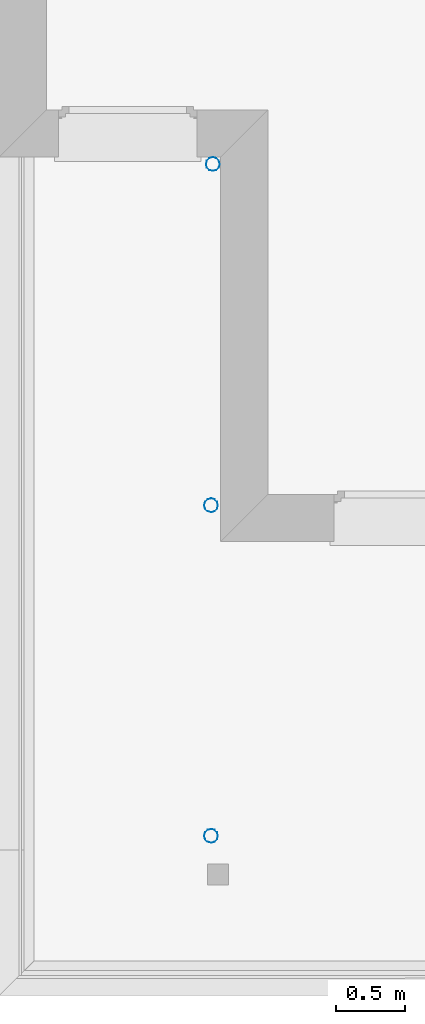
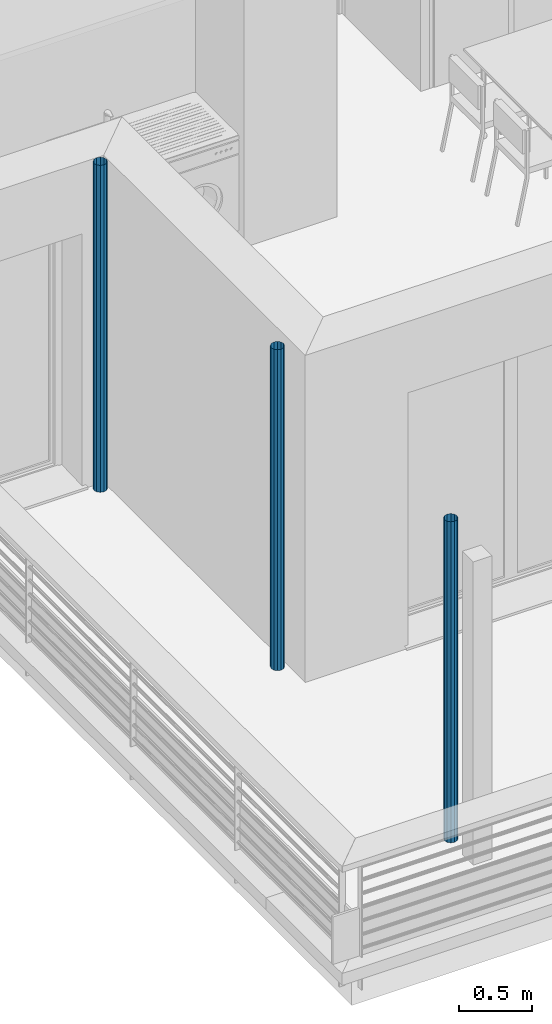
# One storey, part 89 of 171: 3 discrete accessories.
"""IFC2X3 building model written with IfcOpenShell, lengths in millimetres."""

from ifc_helpers import new_model, entity, si_unit, converted_unit, derived_unit, money_unit, direction, frame, origin_with_axes, place, context, subcontext, project, spatial, open_shell, surface_model, source, transform, mapped, type_object, element, save


model = new_model("IFC2X3")

# Units and contexts
model_context = context("Model", 3, precision=0.01, world=origin_with_axes(), true_north=direction((0.0, 1.0)))
body_context = subcontext(model_context, "Body", "Model", "MODEL_VIEW")
ifc_project = project(units=[si_unit("LENGTHUNIT", "METRE", prefix="MILLI"), si_unit("AREAUNIT", "SQUARE_METRE"), si_unit("VOLUMEUNIT", "CUBIC_METRE"), converted_unit("PLANEANGLEUNIT", "DEGREE", entity("IfcPlaneAngleMeasure", 0.0174532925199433), si_unit("PLANEANGLEUNIT", "RADIAN"), dimensions=[0, 0, 0, 0, 0, 0, 0]), money_unit("USD"), converted_unit("TIMEUNIT", "Year", entity("IfcTimeMeasure", 31557600.0), si_unit("TIMEUNIT", "SECOND"), dimensions=[0, 0, 1, 0, 0, 0, 0]), si_unit("MASSUNIT", "GRAM", prefix="KILO"), si_unit("THERMODYNAMICTEMPERATUREUNIT", "DEGREE_CELSIUS"), si_unit("LUMINOUSINTENSITYUNIT", "LUMEN"), si_unit("ENERGYUNIT", "JOULE", prefix="MEGA"), derived_unit("THERMALCONDUCTANCEUNIT", [(si_unit("POWERUNIT", "WATT"), 1), (si_unit("LENGTHUNIT", "METRE"), -1), (si_unit("THERMODYNAMICTEMPERATUREUNIT", "KELVIN"), -1)]), derived_unit("SPECIFICHEATCAPACITYUNIT", [(si_unit("ENERGYUNIT", "JOULE"), 1), (si_unit("MASSUNIT", "GRAM", prefix="KILO"), -1), (si_unit("THERMODYNAMICTEMPERATUREUNIT", "KELVIN"), -1)]), derived_unit("MASSDENSITYUNIT", [(si_unit("MASSUNIT", "GRAM", prefix="KILO"), 1), (si_unit("VOLUMEUNIT", "CUBIC_METRE"), -1)])], contexts=[model_context])

# Site, building, storey
site_placement = place(None, origin_with_axes())
site = spatial("IfcSite", under=ifc_project, at=site_placement, Name="Site", CompositionType="ELEMENT")
building_placement = place(site_placement, origin_with_axes())
building = spatial("IfcBuilding", under=site, at=building_placement, Name="Bâtiment", CompositionType="ELEMENT")
storey_placement = place(building_placement, frame((0.0, 0.0, 3000.0), z_axis=(0.0, 0.0, 1.0), x_axis=(1.0, 0.0, 0.0)))
storey = spatial("IfcBuildingStorey", under=building, at=storey_placement, Name="rdc", CompositionType="ELEMENT", Elevation=3000.0)

# Discrete accessories
discrete_accessory_type = type_object("IfcDiscreteAccessoryType", Name="Tuyau descente 27")
shared_shape_1 = source(origin_with_axes(), body_context, "Body", "SurfaceModel", [
    surface_model("IfcShellBasedSurfaceModel", [(50.0, 0.0, 2700.0), (43.30127018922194, -25.0, 2700.0), (43.30127018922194, -25.0, 0.0), (50.0, 0.0, 0.0), (25.00000000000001, -43.30127018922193, 2700.0), (25.00000000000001, -43.30127018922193, 0.0), (43.30127018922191, 25.00000000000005, 2700.0), (43.30127018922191, 25.00000000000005, 0.0), (0.0, -50.0, 2700.0), (0.0, -50.0, 0.0), (24.99999999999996, 43.30127018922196, 2700.0), (24.99999999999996, 43.30127018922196, 0.0), (-24.99999999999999, -43.30127018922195, 2700.0), (-24.99999999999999, -43.30127018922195, 0.0), (0.0, 50.0, 2700.0), (0.0, 50.0, 0.0), (-43.30127018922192, -25.00000000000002, 2700.0), (-43.30127018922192, -25.00000000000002, 0.0), (-25.00000000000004, 43.30127018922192, 2700.0), (-25.00000000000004, 43.30127018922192, 0.0), (-50.0, 0.0, 2700.0), (-50.0, 0.0, 0.0), (-43.30127018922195, 24.99999999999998, 2700.0), (-43.30127018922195, 24.99999999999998, 0.0)], [open_shell([[[0, 1, 2, 3]], [[1, 4, 5, 2]], [[6, 0, 3, 7]], [[4, 8, 9, 5]], [[10, 6, 7, 11]], [[8, 12, 13, 9]], [[14, 10, 11, 15]], [[12, 16, 17, 13]], [[18, 14, 15, 19]], [[16, 20, 21, 17]], [[22, 18, 19, 23]], [[20, 22, 23, 21]]])]),
])
for number, where, z_axis, x_axis, name in (
    (1, (2218164.233338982, -657556.9887538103, 0.0), (0.0, 0.0, 1.0), (1.0, 0.0, 0.0), "Obj.-318"),
    (2, (2218164.233338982, -659945.2572130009, 0.0), (0.0, 0.0, 1.0), (1.0, 0.0, 0.0), "Obj.-318"),
):
    element("IfcDiscreteAccessory", number, at=place(storey_placement, frame(where, z_axis=z_axis, x_axis=x_axis)), inside=storey, type_object=discrete_accessory_type, Name=name, context=body_context, shape_type="MappedRepresentation", body=[
        mapped(shared_shape_1, transform((0.0, 0.0, 0.0))),
    ])
shared_shape_2 = source(origin_with_axes(), body_context, "Body", "SurfaceModel", [
    surface_model("IfcShellBasedSurfaceModel", [(50.0, 0.0, 2750.0), (43.30127018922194, -25.0, 2750.0), (43.30127018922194, -25.0, 0.0), (50.0, 0.0, 0.0), (25.00000000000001, -43.30127018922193, 2750.0), (25.00000000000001, -43.30127018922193, 0.0), (43.30127018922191, 25.00000000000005, 2750.0), (43.30127018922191, 25.00000000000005, 0.0), (0.0, -50.0, 2750.0), (0.0, -50.0, 0.0), (24.99999999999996, 43.30127018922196, 2750.0), (24.99999999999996, 43.30127018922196, 0.0), (-24.99999999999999, -43.30127018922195, 2750.0), (-24.99999999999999, -43.30127018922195, 0.0), (0.0, 50.0, 2750.0), (0.0, 50.0, 0.0), (-43.30127018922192, -25.00000000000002, 2750.0), (-43.30127018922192, -25.00000000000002, 0.0), (-25.00000000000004, 43.30127018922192, 2750.0), (-25.00000000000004, 43.30127018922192, 0.0), (-50.0, 0.0, 2750.0), (-50.0, 0.0, 0.0), (-43.30127018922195, 24.99999999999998, 2750.0), (-43.30127018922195, 24.99999999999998, 0.0)], [open_shell([[[0, 1, 2, 3]], [[1, 4, 5, 2]], [[6, 0, 3, 7]], [[4, 8, 9, 5]], [[10, 6, 7, 11]], [[8, 12, 13, 9]], [[14, 10, 11, 15]], [[12, 16, 17, 13]], [[18, 14, 15, 19]], [[16, 20, 21, 17]], [[22, 18, 19, 23]], [[20, 22, 23, 21]]])]),
])
discrete_accessory_placement = place(storey_placement, frame((2218177.823438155, -655091.4677782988, 0.0), z_axis=(0.0, 0.0, 1.0), x_axis=(1.0, 0.0, 0.0)))
element("IfcDiscreteAccessory", 3, at=discrete_accessory_placement, inside=storey, type_object=discrete_accessory_type, Name="Obj.-318", context=body_context, shape_type="MappedRepresentation", body=[
    mapped(shared_shape_2, transform((0.0, 0.0, 0.0))),
])

save(model, "model.ifc")
